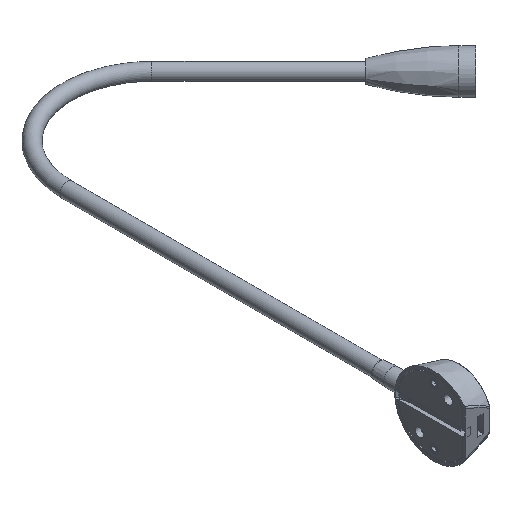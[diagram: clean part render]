
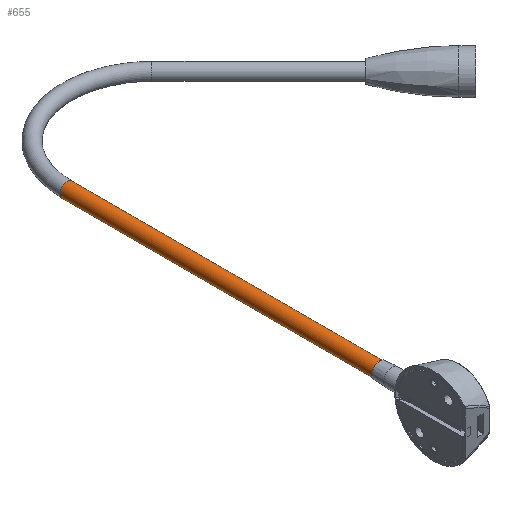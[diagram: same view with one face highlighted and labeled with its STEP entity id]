
A CAD part, isometric view. The second image highlights one B-rep face of the part: STEP entity #655.
In plain terms, the highlighted cylindrical face has radius 5 mm (diameter 10 mm), a full revolution.
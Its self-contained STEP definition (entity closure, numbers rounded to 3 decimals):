
#655=ADVANCED_FACE('',(#804,#805),#731,.T.);
#731=CYLINDRICAL_SURFACE('',#2419,5.);
#804=FACE_BOUND('',#957,.T.);
#805=FACE_BOUND('',#958,.T.);
#957=EDGE_LOOP('',(#1370));
#958=EDGE_LOOP('',(#1371));
#1370=ORIENTED_EDGE('',*,*,#2076,.F.);
#1371=ORIENTED_EDGE('',*,*,#2073,.F.);
#1813=VERTEX_POINT('',#3869);
#1816=VERTEX_POINT('',#3878);
#2073=EDGE_CURVE('',#1813,#1813,#2236,.T.);
#2076=EDGE_CURVE('',#1816,#1816,#2239,.T.);
#2236=CIRCLE('',#2412,5.);
#2239=CIRCLE('',#2418,5.);
#2412=AXIS2_PLACEMENT_3D('',#3868,#2879,#2880);
#2418=AXIS2_PLACEMENT_3D('',#3877,#2891,#2892);
#2419=AXIS2_PLACEMENT_3D('',#3879,#2893,#2894);
#2879=DIRECTION('',(0.,-1.,0.));
#2880=DIRECTION('',(0.,0.,-1.));
#2891=DIRECTION('',(0.,1.,0.));
#2892=DIRECTION('',(-1.,0.,0.));
#2893=DIRECTION('',(0.,1.,0.));
#2894=DIRECTION('',(1.,0.,0.));
#3868=CARTESIAN_POINT('',(0.,12.,0.));
#3869=CARTESIAN_POINT('',(0.,12.,-5.));
#3877=CARTESIAN_POINT('',(0.,232.876,0.));
#3878=CARTESIAN_POINT('',(-5.,232.876,0.));
#3879=CARTESIAN_POINT('',(0.,0.,0.));
